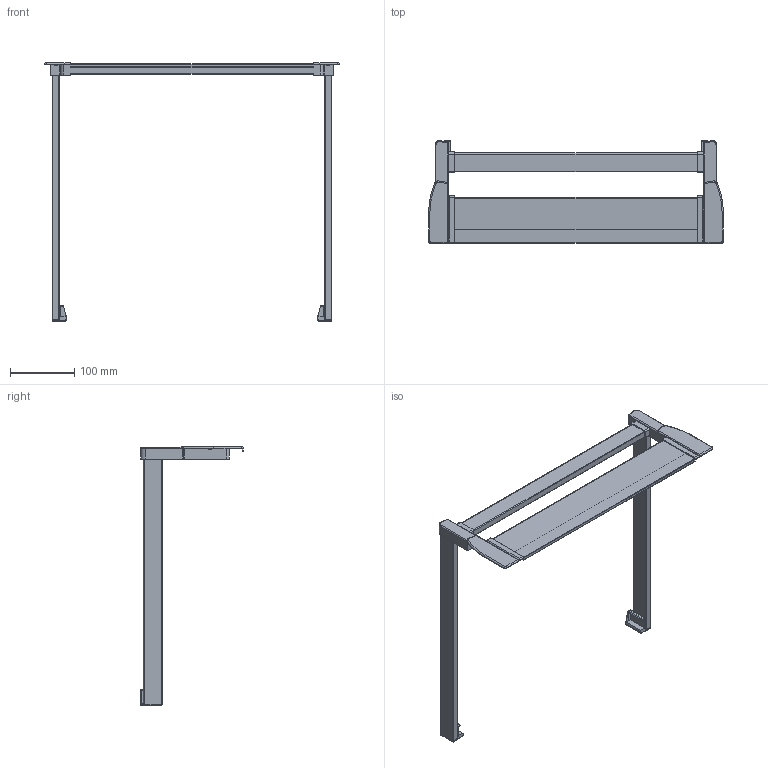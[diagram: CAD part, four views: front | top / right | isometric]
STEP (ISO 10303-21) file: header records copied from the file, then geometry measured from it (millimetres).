
FILE_DESCRIPTION (( 'STEP AP214' ), '1' );
FILE_NAME ('1_P620_NL 400_KAB 500_16er KS_.step', '2009-09-16T06:29:25', ( 'Waldinger Reinhard' ), ( 'Grass GmbH' ), 'SwSTEP 2.0', 'SolidWorks 2009', '' );
FILE_SCHEMA (( 'AUTOMOTIVE_DESIGN' ));
Length unit declared in the file: millimetre
Products named in the file (1): 1_P620_NL 400_KAB 500_16er KS_
Bounding box: 459.6 x 160.5 x 402.8 mm (x, y, z)
Volume: 806930.2 mm3; surface area: 193125.6 mm2
Topology: 1 solids, 1 shells, 220 faces, 578 edges, 364 vertices
Faces by surface type: plane 97, cylinder 91, torus 28, sphere 2, bspline 2
Entity records: 7004 total; most frequent: CARTESIAN_POINT 1345, DIRECTION 1198, ORIENTED_EDGE 1152, EDGE_CURVE 576, AXIS2_PLACEMENT_3D 433, VERTEX_POINT 364, VECTOR 332, LINE 332
